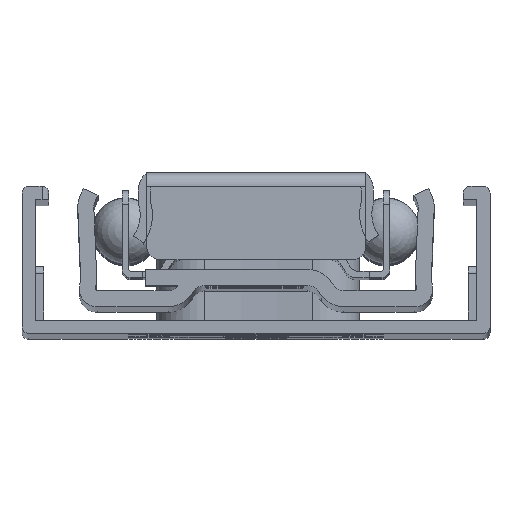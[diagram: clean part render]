
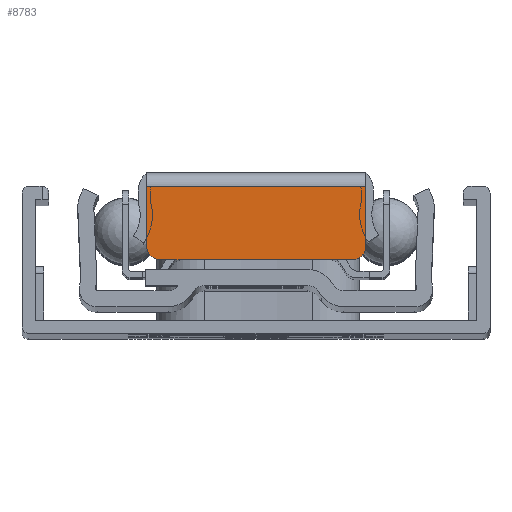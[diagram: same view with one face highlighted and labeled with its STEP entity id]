
A CAD part, top view. The second image highlights one B-rep face of the part: STEP entity #8783.
In plain terms, the highlighted planar face has unit normal (0, 0, 1).
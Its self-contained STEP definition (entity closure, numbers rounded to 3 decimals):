
#852=FACE_OUTER_BOUND('',#1370,.T.);
#1370=EDGE_LOOP('',(#7972,#7973,#7974,#7975,#7976,#7977));
#1814=CIRCLE('',#9691,1.);
#1815=CIRCLE('',#9692,1.);
#2647=LINE('',#15028,#3498);
#2648=LINE('',#15031,#3499);
#2649=LINE('',#15035,#3500);
#2650=LINE('',#15038,#3501);
#3498=VECTOR('',#12202,10.);
#3499=VECTOR('',#12205,10.);
#3500=VECTOR('',#12208,10.);
#3501=VECTOR('',#12211,10.);
#4336=VERTEX_POINT('',#15024);
#4337=VERTEX_POINT('',#15026);
#4338=VERTEX_POINT('',#15030);
#4339=VERTEX_POINT('',#15032);
#4340=VERTEX_POINT('',#15034);
#4341=VERTEX_POINT('',#15036);
#5564=EDGE_CURVE('',#4337,#4336,#2647,.T.);
#5565=EDGE_CURVE('',#4337,#4338,#2648,.T.);
#5566=EDGE_CURVE('',#4339,#4338,#1814,.T.);
#5567=EDGE_CURVE('',#4339,#4340,#2649,.T.);
#5568=EDGE_CURVE('',#4341,#4340,#1815,.T.);
#5569=EDGE_CURVE('',#4336,#4341,#2650,.T.);
#7972=ORIENTED_EDGE('',*,*,#5564,.F.);
#7973=ORIENTED_EDGE('',*,*,#5565,.T.);
#7974=ORIENTED_EDGE('',*,*,#5566,.F.);
#7975=ORIENTED_EDGE('',*,*,#5567,.T.);
#7976=ORIENTED_EDGE('',*,*,#5568,.F.);
#7977=ORIENTED_EDGE('',*,*,#5569,.F.);
#8360=PLANE('',#9690);
#8783=ADVANCED_FACE('',(#852),#8360,.T.);
#9690=AXIS2_PLACEMENT_3D('',#15029,#12203,#12204);
#9691=AXIS2_PLACEMENT_3D('',#15033,#12206,#12207);
#9692=AXIS2_PLACEMENT_3D('',#15037,#12209,#12210);
#12202=DIRECTION('',(-1.,0.,0.));
#12203=DIRECTION('center_axis',(0.,0.,1.));
#12204=DIRECTION('ref_axis',(1.,0.,0.));
#12205=DIRECTION('',(0.,1.,0.));
#12206=DIRECTION('center_axis',(0.,0.,-1.));
#12207=DIRECTION('ref_axis',(0.707,0.707,0.));
#12208=DIRECTION('',(-1.,0.,0.));
#12209=DIRECTION('center_axis',(0.,0.,-1.));
#12210=DIRECTION('ref_axis',(-0.707,0.707,0.));
#12211=DIRECTION('',(0.,1.,0.));
#15024=CARTESIAN_POINT('',(5.11,-4.766,249.));
#15026=CARTESIAN_POINT('',(21.512,-4.766,249.));
#15028=CARTESIAN_POINT('',(17.427,-4.766,249.));
#15029=CARTESIAN_POINT('Origin',(21.512,-5.766,249.));
#15030=CARTESIAN_POINT('',(21.512,-0.266,249.));
#15031=CARTESIAN_POINT('',(21.512,-5.766,249.));
#15032=CARTESIAN_POINT('',(20.512,0.734,249.));
#15033=CARTESIAN_POINT('Origin',(20.512,-0.266,249.));
#15034=CARTESIAN_POINT('',(6.11,0.734,249.));
#15035=CARTESIAN_POINT('',(21.512,0.734,249.));
#15036=CARTESIAN_POINT('',(5.11,-0.266,249.));
#15037=CARTESIAN_POINT('Origin',(6.11,-0.266,249.));
#15038=CARTESIAN_POINT('',(5.11,-5.766,249.));
